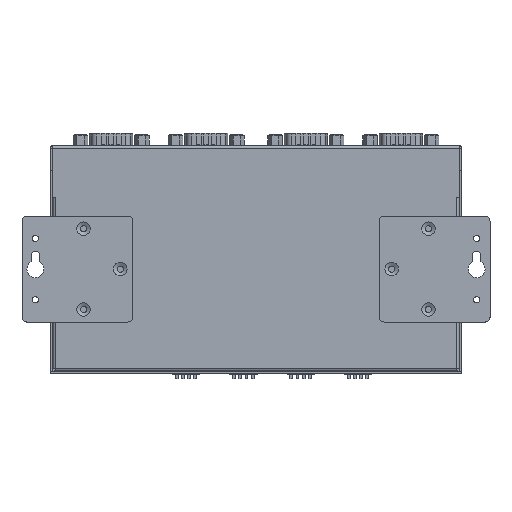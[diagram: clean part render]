
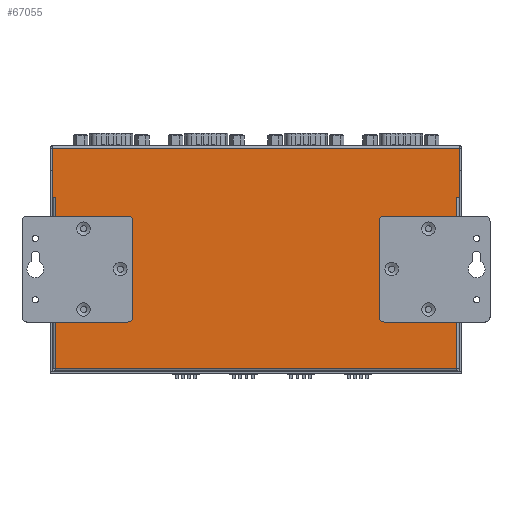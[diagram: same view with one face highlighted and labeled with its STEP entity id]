
A CAD part, front view. The second image highlights one B-rep face of the part: STEP entity #67055.
In plain terms, the highlighted planar face has unit normal (0, -1, 0).
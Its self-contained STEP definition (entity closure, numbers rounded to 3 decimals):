
#1284=FACE_BOUND('',#10611,.T.);
#1285=FACE_BOUND('',#10612,.T.);
#1286=FACE_BOUND('',#10613,.T.);
#1287=FACE_BOUND('',#10614,.T.);
#1288=FACE_BOUND('',#10615,.T.);
#1289=FACE_BOUND('',#10616,.T.);
#2867=PLANE('',#71725);
#6922=FACE_OUTER_BOUND('',#10610,.T.);
#10610=EDGE_LOOP('',(#57253,#57254,#57255,#57256,#57257,#57258,#57259,#57260));
#10611=EDGE_LOOP('',(#57261));
#10612=EDGE_LOOP('',(#57262));
#10613=EDGE_LOOP('',(#57263));
#10614=EDGE_LOOP('',(#57264));
#10615=EDGE_LOOP('',(#57265));
#10616=EDGE_LOOP('',(#57266));
#14501=LINE('',#121211,#22200);
#16421=LINE('',#134825,#24120);
#16440=LINE('',#134873,#24139);
#16449=LINE('',#134903,#24148);
#16467=LINE('',#134939,#24166);
#16471=LINE('',#134948,#24170);
#16480=LINE('',#134971,#24179);
#16497=LINE('',#135004,#24196);
#22200=VECTOR('',#79329,10.);
#24120=VECTOR('',#83747,10.);
#24139=VECTOR('',#83798,10.);
#24148=VECTOR('',#83827,10.);
#24166=VECTOR('',#83855,10.);
#24170=VECTOR('',#83863,10.);
#24179=VECTOR('',#83890,10.);
#24196=VECTOR('',#83927,10.);
#28273=CIRCLE('',#71605,1.265);
#28275=CIRCLE('',#71608,1.265);
#28277=CIRCLE('',#71611,1.265);
#28279=CIRCLE('',#71614,1.265);
#28281=CIRCLE('',#71617,1.265);
#28283=CIRCLE('',#71620,1.265);
#31152=VERTEX_POINT('',#121208);
#31153=VERTEX_POINT('',#121210);
#32676=VERTEX_POINT('',#134695);
#32678=VERTEX_POINT('',#134701);
#32680=VERTEX_POINT('',#134707);
#32682=VERTEX_POINT('',#134713);
#32684=VERTEX_POINT('',#134719);
#32686=VERTEX_POINT('',#134725);
#32690=VERTEX_POINT('',#134822);
#32691=VERTEX_POINT('',#134824);
#32704=VERTEX_POINT('',#134872);
#32715=VERTEX_POINT('',#134901);
#32728=VERTEX_POINT('',#134938);
#32731=VERTEX_POINT('',#134947);
#38747=EDGE_CURVE('',#31152,#31153,#14501,.T.);
#41168=EDGE_CURVE('',#32676,#32676,#28273,.T.);
#41171=EDGE_CURVE('',#32678,#32678,#28275,.T.);
#41174=EDGE_CURVE('',#32680,#32680,#28277,.T.);
#41177=EDGE_CURVE('',#32682,#32682,#28279,.T.);
#41180=EDGE_CURVE('',#32684,#32684,#28281,.T.);
#41183=EDGE_CURVE('',#32686,#32686,#28283,.T.);
#41228=EDGE_CURVE('',#32691,#32690,#16421,.T.);
#41252=EDGE_CURVE('',#32704,#32691,#16440,.T.);
#41268=EDGE_CURVE('',#32690,#32715,#16449,.T.);
#41286=EDGE_CURVE('',#32704,#32728,#16467,.T.);
#41291=EDGE_CURVE('',#32728,#32731,#16471,.T.);
#41304=EDGE_CURVE('',#32715,#31153,#16480,.T.);
#41321=EDGE_CURVE('',#31152,#32731,#16497,.T.);
#57253=ORIENTED_EDGE('',*,*,#41228,.T.);
#57254=ORIENTED_EDGE('',*,*,#41268,.T.);
#57255=ORIENTED_EDGE('',*,*,#41304,.T.);
#57256=ORIENTED_EDGE('',*,*,#38747,.F.);
#57257=ORIENTED_EDGE('',*,*,#41321,.T.);
#57258=ORIENTED_EDGE('',*,*,#41291,.F.);
#57259=ORIENTED_EDGE('',*,*,#41286,.F.);
#57260=ORIENTED_EDGE('',*,*,#41252,.T.);
#57261=ORIENTED_EDGE('',*,*,#41168,.T.);
#57262=ORIENTED_EDGE('',*,*,#41171,.T.);
#57263=ORIENTED_EDGE('',*,*,#41174,.T.);
#57264=ORIENTED_EDGE('',*,*,#41177,.T.);
#57265=ORIENTED_EDGE('',*,*,#41180,.T.);
#57266=ORIENTED_EDGE('',*,*,#41183,.T.);
#67055=ADVANCED_FACE('',(#6922,#1284,#1285,#1286,#1287,#1288,#1289),#2867,
 .T.);
#71605=AXIS2_PLACEMENT_3D('',#134696,#83566,#83567);
#71608=AXIS2_PLACEMENT_3D('',#134702,#83573,#83574);
#71611=AXIS2_PLACEMENT_3D('',#134708,#83580,#83581);
#71614=AXIS2_PLACEMENT_3D('',#134714,#83587,#83588);
#71617=AXIS2_PLACEMENT_3D('',#134720,#83594,#83595);
#71620=AXIS2_PLACEMENT_3D('',#134726,#83601,#83602);
#71725=AXIS2_PLACEMENT_3D('',#135006,#83930,#83931);
#79329=DIRECTION('',(0.,0.,-1.));
#83566=DIRECTION('center_axis',(0.,1.,0.));
#83567=DIRECTION('ref_axis',(0.,0.,-1.));
#83573=DIRECTION('center_axis',(0.,1.,0.));
#83574=DIRECTION('ref_axis',(0.,0.,-1.));
#83580=DIRECTION('center_axis',(0.,1.,0.));
#83581=DIRECTION('ref_axis',(0.,0.,-1.));
#83587=DIRECTION('center_axis',(0.,1.,0.));
#83588=DIRECTION('ref_axis',(0.,0.,-1.));
#83594=DIRECTION('center_axis',(0.,1.,0.));
#83595=DIRECTION('ref_axis',(0.,0.,-1.));
#83601=DIRECTION('center_axis',(0.,1.,0.));
#83602=DIRECTION('ref_axis',(0.,0.,-1.));
#83747=DIRECTION('',(1.,0.,0.));
#83798=DIRECTION('',(0.,0.,-1.));
#83827=DIRECTION('',(0.,0.,1.));
#83855=DIRECTION('',(-1.,0.,0.));
#83863=DIRECTION('',(0.,0.,1.));
#83890=DIRECTION('',(1.,0.,0.));
#83927=DIRECTION('',(-1.,0.,0.));
#83930=DIRECTION('center_axis',(0.,-1.,0.));
#83931=DIRECTION('ref_axis',(1.,0.,0.));
#121208=CARTESIAN_POINT('',(82.9,-9.8,-1.01));
#121210=CARTESIAN_POINT('',(82.9,-9.8,-21.01));
#121211=CARTESIAN_POINT('',(82.9,-9.8,-23.505));
#134695=CARTESIAN_POINT('',(70.4,-9.8,-65.686));
#134696=CARTESIAN_POINT('Origin',(70.4,-9.8,-66.95));
#134701=CARTESIAN_POINT('',(-55.4,-9.8,-49.186));
#134702=CARTESIAN_POINT('Origin',(-55.4,-9.8,-50.45));
#134707=CARTESIAN_POINT('',(-70.4,-9.8,-32.686));
#134708=CARTESIAN_POINT('Origin',(-70.4,-9.8,-33.95));
#134713=CARTESIAN_POINT('',(-70.4,-9.8,-65.686));
#134714=CARTESIAN_POINT('Origin',(-70.4,-9.8,-66.95));
#134719=CARTESIAN_POINT('',(70.4,-9.8,-32.686));
#134720=CARTESIAN_POINT('Origin',(70.4,-9.8,-33.95));
#134725=CARTESIAN_POINT('',(55.4,-9.8,-49.186));
#134726=CARTESIAN_POINT('Origin',(55.4,-9.8,-50.45));
#134822=CARTESIAN_POINT('',(81.89,-9.8,-90.99));
#134824=CARTESIAN_POINT('',(-81.89,-9.8,-90.99));
#134825=CARTESIAN_POINT('',(40.945,-9.8,-90.99));
#134872=CARTESIAN_POINT('',(-81.89,-9.8,-21.01));
#134873=CARTESIAN_POINT('',(-81.89,-9.8,-69.));
#134901=CARTESIAN_POINT('',(81.89,-9.8,-21.01));
#134903=CARTESIAN_POINT('',(81.89,-9.8,-23.505));
#134938=CARTESIAN_POINT('',(-82.9,-9.8,-21.01));
#134939=CARTESIAN_POINT('',(-81.89,-9.8,-21.01));
#134947=CARTESIAN_POINT('',(-82.9,-9.8,-1.01));
#134948=CARTESIAN_POINT('',(-82.9,-9.8,-69.));
#134971=CARTESIAN_POINT('',(81.89,-9.8,-21.01));
#135004=CARTESIAN_POINT('',(-41.45,-9.8,-1.01));
#135006=CARTESIAN_POINT('Origin',(0.,-9.8,
-46.));
